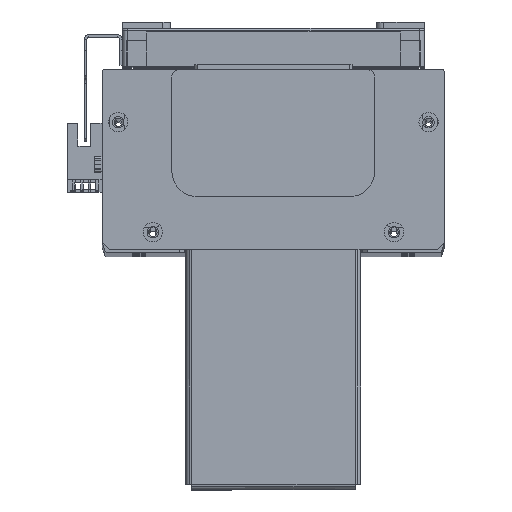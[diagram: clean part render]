
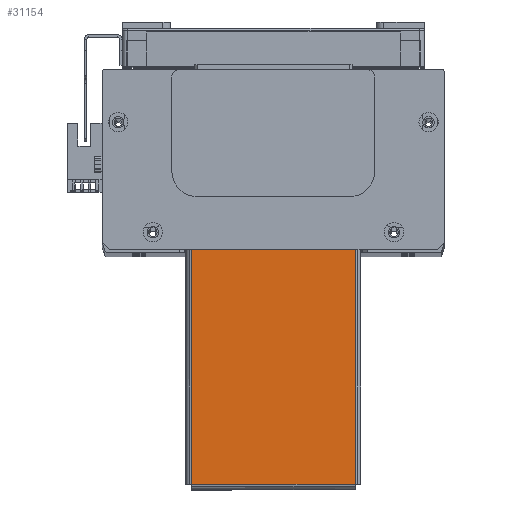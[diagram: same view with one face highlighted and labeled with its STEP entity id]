
A CAD part, top view. The second image highlights one B-rep face of the part: STEP entity #31154.
In plain terms, the highlighted planar face has unit normal (0, 0, 1) as drawn and (0, -1, 0) by its records, which use the part's own axes.
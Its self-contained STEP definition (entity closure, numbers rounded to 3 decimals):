
#2216 = AXIS2_PLACEMENT_3D ( 'NONE', #62827, #62826, #62819 ) ;
#13095 = FACE_OUTER_BOUND ( 'NONE', #36413, .T. ) ;
#23035 = CARTESIAN_POINT ( 'NONE',  ( -94.793, -1.5, -32.263 ) ) ;
#23047 = DIRECTION ( 'NONE',  ( 1., 0., 0. ) ) ;
#23249 = CARTESIAN_POINT ( 'NONE',  ( -94.763, -1.5, -32.263 ) ) ;
#23268 = CARTESIAN_POINT ( 'NONE',  ( -2., -1.5, 32.263 ) ) ;
#23283 = CARTESIAN_POINT ( 'NONE',  ( -94.763, -1.5, 32.263 ) ) ;
#23307 = CARTESIAN_POINT ( 'NONE',  ( -2., -1.5, -32.263 ) ) ;
#25236 = LINE ( 'NONE', #23035, #25237 ) ;
#25237 = VECTOR ( 'NONE', #23047, 1000. ) ;
#31154 = ADVANCED_FACE ( 'NONE', ( #13095 ), #62815, .F. ) ;
#36413 = EDGE_LOOP ( 'NONE', ( #37929, #37941, #37908, #37893 ) ) ;
#37893 = ORIENTED_EDGE ( 'NONE', *, *, #57809, .T. ) ;
#37908 = ORIENTED_EDGE ( 'NONE', *, *, #57838, .T. ) ;
#37929 = ORIENTED_EDGE ( 'NONE', *, *, #42499, .T. ) ;
#37941 = ORIENTED_EDGE ( 'NONE', *, *, #57835, .F. ) ;
#42499 = EDGE_CURVE ( 'NONE', #42603, #42614, #25236, .T. ) ;
#42599 = VERTEX_POINT ( 'NONE', #23268 ) ;
#42603 = VERTEX_POINT ( 'NONE', #23249 ) ;
#42610 = VERTEX_POINT ( 'NONE', #23283 ) ;
#42614 = VERTEX_POINT ( 'NONE', #23307 ) ;
#57635 = CARTESIAN_POINT ( 'NONE',  ( -94.763, -1.5, 32.293 ) ) ;
#57642 = DIRECTION ( 'NONE',  ( 0., 0., -1. ) ) ;
#57713 = CARTESIAN_POINT ( 'NONE',  ( -2., -1.5, 34.5 ) ) ;
#57714 = DIRECTION ( 'NONE',  ( 0., 0., -1. ) ) ;
#57716 = CARTESIAN_POINT ( 'NONE',  ( 94.793, -1.5, 32.263 ) ) ;
#57731 = DIRECTION ( 'NONE',  ( -1., 0., 0. ) ) ;
#57809 = EDGE_CURVE ( 'NONE', #42610, #42603, #61783, .T. ) ;
#57835 = EDGE_CURVE ( 'NONE', #42599, #42614, #61853, .T. ) ;
#57838 = EDGE_CURVE ( 'NONE', #42599, #42610, #61818, .T. ) ;
#61751 = VECTOR ( 'NONE', #57642, 1000. ) ;
#61783 = LINE ( 'NONE', #57635, #61751 ) ;
#61818 = LINE ( 'NONE', #57716, #61859 ) ;
#61850 = VECTOR ( 'NONE', #57714, 1000. ) ;
#61853 = LINE ( 'NONE', #57713, #61850 ) ;
#61859 = VECTOR ( 'NONE', #57731, 1000. ) ;
#62815 = PLANE ( 'NONE',  #2216 ) ;
#62819 = DIRECTION ( 'NONE',  ( 0., 0., 1. ) ) ;
#62826 = DIRECTION ( 'NONE',  ( 0., 1., 0. ) ) ;
#62827 = CARTESIAN_POINT ( 'NONE',  ( 0., -1.5, 0. ) ) ;
